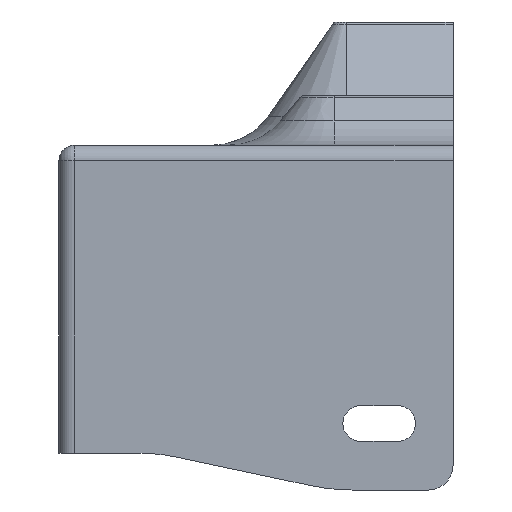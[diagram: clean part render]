
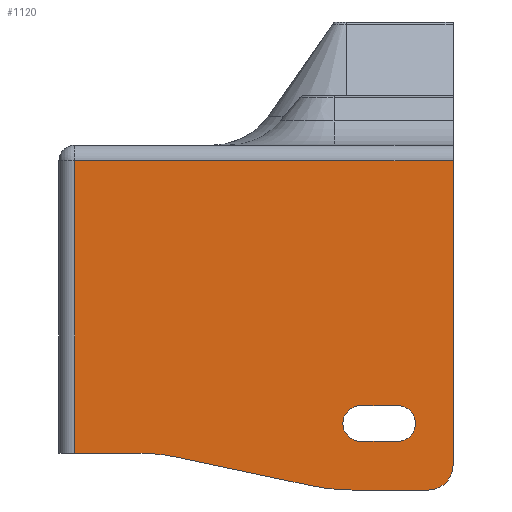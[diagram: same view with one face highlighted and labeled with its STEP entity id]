
A CAD part, left-side view. The second image highlights one B-rep face of the part: STEP entity #1120.
In plain terms, the highlighted planar face has unit normal (-1, 0, 0).
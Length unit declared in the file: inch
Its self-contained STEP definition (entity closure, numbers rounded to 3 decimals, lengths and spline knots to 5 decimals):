
#98 = CARTESIAN_POINT ( 'NONE',  ( -2.33425, -0.71875, 0.42805 ) ) ;
#145 = CARTESIAN_POINT ( 'NONE',  ( -2.33425, -0.875, 0. ) ) ;
#169 = PLANE ( 'NONE',  #5214 ) ;
#182 = AXIS2_PLACEMENT_3D ( 'NONE', #3336, #1533, #4638 ) ;
#242 = VECTOR ( 'NONE', #1173, 39.37008 ) ;
#316 = ORIENTED_EDGE ( 'NONE', *, *, #3281, .T. ) ;
#361 = EDGE_CURVE ( 'NONE', #1956, #2481, #3189, .T. ) ;
#415 = EDGE_CURVE ( 'NONE', #5411, #534, #4157, .T. ) ;
#455 = AXIS2_PLACEMENT_3D ( 'NONE', #4200, #5530, #5494 ) ;
#534 = VERTEX_POINT ( 'NONE', #3608 ) ;
#536 = FACE_BOUND ( 'NONE', #2095, .T. ) ;
#623 = DIRECTION ( 'NONE',  ( 0., -1., 0. ) ) ;
#656 = LINE ( 'NONE', #5674, #1016 ) ;
#684 = ORIENTED_EDGE ( 'NONE', *, *, #5463, .T. ) ;
#707 = DIRECTION ( 'NONE',  ( 0., -0.978, -0.208 ) ) ;
#779 = CARTESIAN_POINT ( 'NONE',  ( -2.33425, -1., 1.67 ) ) ;
#787 = DIRECTION ( 'NONE',  ( 0., 0., -1. ) ) ;
#790 = EDGE_CURVE ( 'NONE', #907, #2481, #3937, .T. ) ;
#813 = AXIS2_PLACEMENT_3D ( 'NONE', #5544, #5106, #1146 ) ;
#904 = DIRECTION ( 'NONE',  ( 0., -1., 0. ) ) ;
#907 = VERTEX_POINT ( 'NONE', #145 ) ;
#1012 = DIRECTION ( 'NONE',  ( -1., 0., 0. ) ) ;
#1016 = VECTOR ( 'NONE', #3013, 39.37008 ) ;
#1023 = EDGE_CURVE ( 'NONE', #534, #4807, #3663, .T. ) ;
#1059 = DIRECTION ( 'NONE',  ( 1., 0., 0. ) ) ;
#1087 = CARTESIAN_POINT ( 'NONE',  ( -2.33425, -0.53125, 0.42805 ) ) ;
#1120 = ADVANCED_FACE ( 'NONE', ( #536, #1584 ), #169, .F. ) ;
#1146 = DIRECTION ( 'NONE',  ( 0., 0., -1. ) ) ;
#1173 = DIRECTION ( 'NONE',  ( 0., 0., -1. ) ) ;
#1290 = VERTEX_POINT ( 'NONE', #2995 ) ;
#1385 = CARTESIAN_POINT ( 'NONE',  ( -2.33425, -0.53125, 0.24695 ) ) ;
#1506 = DIRECTION ( 'NONE',  ( 0., 0., -1. ) ) ;
#1533 = DIRECTION ( 'NONE',  ( 1., 0., 0. ) ) ;
#1584 = FACE_OUTER_BOUND ( 'NONE', #5696, .T. ) ;
#1610 = EDGE_CURVE ( 'NONE', #5510, #4617, #5355, .T. ) ;
#1620 = CIRCLE ( 'NONE', #5189, 1. ) ;
#1734 = ORIENTED_EDGE ( 'NONE', *, *, #4132, .T. ) ;
#1756 = ORIENTED_EDGE ( 'NONE', *, *, #3292, .T. ) ;
#1956 = VERTEX_POINT ( 'NONE', #779 ) ;
#1982 = CIRCLE ( 'NONE', #182, 0.09055 ) ;
#1999 = CARTESIAN_POINT ( 'NONE',  ( -2.33425, 0.5, 0.1875 ) ) ;
#2008 = VECTOR ( 'NONE', #787, 39.37008 ) ;
#2095 = EDGE_LOOP ( 'NONE', ( #5722, #316, #3120, #4873 ) ) ;
#2223 = DIRECTION ( 'NONE',  ( 0., 1., 0. ) ) ;
#2462 = CIRCLE ( 'NONE', #813, 0.09055 ) ;
#2481 = VERTEX_POINT ( 'NONE', #4813 ) ;
#2519 = CARTESIAN_POINT ( 'NONE',  ( -2.33425, -0.875, 0.125 ) ) ;
#2750 = DIRECTION ( 'NONE',  ( 0., 0., -1. ) ) ;
#2831 = VECTOR ( 'NONE', #2223, 39.37008 ) ;
#2836 = VECTOR ( 'NONE', #904, 39.37008 ) ;
#2849 = AXIS2_PLACEMENT_3D ( 'NONE', #2519, #5689, #5653 ) ;
#2916 = EDGE_CURVE ( 'NONE', #5492, #5411, #3782, .T. ) ;
#2928 = EDGE_CURVE ( 'NONE', #5447, #907, #656, .T. ) ;
#2959 = CARTESIAN_POINT ( 'NONE',  ( -2.33425, 0.92, 1.75 ) ) ;
#2984 = CARTESIAN_POINT ( 'NONE',  ( -2.33425, -1., 1.75 ) ) ;
#2995 = CARTESIAN_POINT ( 'NONE',  ( -2.33425, -0.27931, 0.02185 ) ) ;
#3008 = VECTOR ( 'NONE', #623, 39.37008 ) ;
#3013 = DIRECTION ( 'NONE',  ( 0., -1., 0. ) ) ;
#3033 = ORIENTED_EDGE ( 'NONE', *, *, #1023, .T. ) ;
#3120 = ORIENTED_EDGE ( 'NONE', *, *, #1610, .T. ) ;
#3154 = LINE ( 'NONE', #5588, #3008 ) ;
#3166 = CARTESIAN_POINT ( 'NONE',  ( -2.33425, -0.48722, 0. ) ) ;
#3189 = LINE ( 'NONE', #2984, #2008 ) ;
#3281 = EDGE_CURVE ( 'NONE', #5444, #5510, #1982, .T. ) ;
#3292 = EDGE_CURVE ( 'NONE', #4807, #1290, #4475, .T. ) ;
#3336 = CARTESIAN_POINT ( 'NONE',  ( -2.33425, -0.71875, 0.3375 ) ) ;
#3344 = DIRECTION ( 'NONE',  ( 0., 1., 0. ) ) ;
#3495 = LINE ( 'NONE', #3781, #3768 ) ;
#3504 = ORIENTED_EDGE ( 'NONE', *, *, #2916, .T. ) ;
#3567 = ORIENTED_EDGE ( 'NONE', *, *, #2928, .T. ) ;
#3597 = CARTESIAN_POINT ( 'NONE',  ( -2.33425, -0.48722, 1. ) ) ;
#3608 = CARTESIAN_POINT ( 'NONE',  ( -2.33425, 0.6051, 0.1875 ) ) ;
#3663 = CIRCLE ( 'NONE', #455, 1. ) ;
#3714 = CARTESIAN_POINT ( 'NONE',  ( -2.33425, -1., 1.75 ) ) ;
#3720 = EDGE_CURVE ( 'NONE', #4682, #5444, #3154, .T. ) ;
#3768 = VECTOR ( 'NONE', #3344, 39.37008 ) ;
#3781 = CARTESIAN_POINT ( 'NONE',  ( -2.33425, -1., 1.67 ) ) ;
#3782 = LINE ( 'NONE', #2959, #242 ) ;
#3905 = CARTESIAN_POINT ( 'NONE',  ( -2.33425, 0.39719, 0.16565 ) ) ;
#3937 = CIRCLE ( 'NONE', #2849, 0.125 ) ;
#4051 = CARTESIAN_POINT ( 'NONE',  ( -2.33425, 0.92, 1.67 ) ) ;
#4098 = EDGE_CURVE ( 'NONE', #4617, #4682, #2462, .T. ) ;
#4112 = CARTESIAN_POINT ( 'NONE',  ( -2.33425, -0.71875, 0.24695 ) ) ;
#4132 = EDGE_CURVE ( 'NONE', #1956, #5492, #3495, .T. ) ;
#4157 = LINE ( 'NONE', #4884, #2836 ) ;
#4200 = CARTESIAN_POINT ( 'NONE',  ( -2.33425, 0.6051, -0.8125 ) ) ;
#4472 = ORIENTED_EDGE ( 'NONE', *, *, #415, .T. ) ;
#4475 = LINE ( 'NONE', #1999, #4897 ) ;
#4552 = ORIENTED_EDGE ( 'NONE', *, *, #361, .F. ) ;
#4617 = VERTEX_POINT ( 'NONE', #1385 ) ;
#4638 = DIRECTION ( 'NONE',  ( 0., 0., -1. ) ) ;
#4682 = VERTEX_POINT ( 'NONE', #1087 ) ;
#4807 = VERTEX_POINT ( 'NONE', #3905 ) ;
#4813 = CARTESIAN_POINT ( 'NONE',  ( -2.33425, -1., 0.125 ) ) ;
#4857 = CARTESIAN_POINT ( 'NONE',  ( -2.33425, 0.92, 0.1875 ) ) ;
#4873 = ORIENTED_EDGE ( 'NONE', *, *, #4098, .T. ) ;
#4879 = CARTESIAN_POINT ( 'NONE',  ( -2.33425, -0.71875, 0.24695 ) ) ;
#4884 = CARTESIAN_POINT ( 'NONE',  ( -2.33425, 1., 0.1875 ) ) ;
#4897 = VECTOR ( 'NONE', #707, 39.37008 ) ;
#5106 = DIRECTION ( 'NONE',  ( 1., 0., 0. ) ) ;
#5189 = AXIS2_PLACEMENT_3D ( 'NONE', #3597, #1012, #2750 ) ;
#5214 = AXIS2_PLACEMENT_3D ( 'NONE', #3714, #1059, #1506 ) ;
#5355 = LINE ( 'NONE', #4879, #2831 ) ;
#5411 = VERTEX_POINT ( 'NONE', #4857 ) ;
#5444 = VERTEX_POINT ( 'NONE', #98 ) ;
#5447 = VERTEX_POINT ( 'NONE', #3166 ) ;
#5463 = EDGE_CURVE ( 'NONE', #1290, #5447, #1620, .T. ) ;
#5488 = ORIENTED_EDGE ( 'NONE', *, *, #790, .T. ) ;
#5492 = VERTEX_POINT ( 'NONE', #4051 ) ;
#5494 = DIRECTION ( 'NONE',  ( 0., 0., -1. ) ) ;
#5510 = VERTEX_POINT ( 'NONE', #4112 ) ;
#5530 = DIRECTION ( 'NONE',  ( 1., 0., 0. ) ) ;
#5544 = CARTESIAN_POINT ( 'NONE',  ( -2.33425, -0.53125, 0.3375 ) ) ;
#5588 = CARTESIAN_POINT ( 'NONE',  ( -2.33425, -0.71875, 0.42805 ) ) ;
#5653 = DIRECTION ( 'NONE',  ( 0., 0., -1. ) ) ;
#5674 = CARTESIAN_POINT ( 'NONE',  ( -2.33425, -1., 0. ) ) ;
#5689 = DIRECTION ( 'NONE',  ( -1., 0., 0. ) ) ;
#5696 = EDGE_LOOP ( 'NONE', ( #4472, #3033, #1756, #684, #3567, #5488, #4552, #1734, #3504 ) ) ;
#5722 = ORIENTED_EDGE ( 'NONE', *, *, #3720, .T. ) ;
